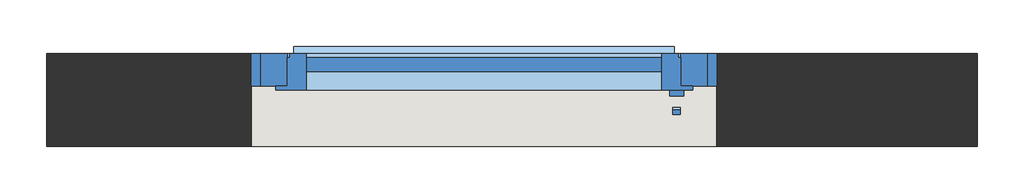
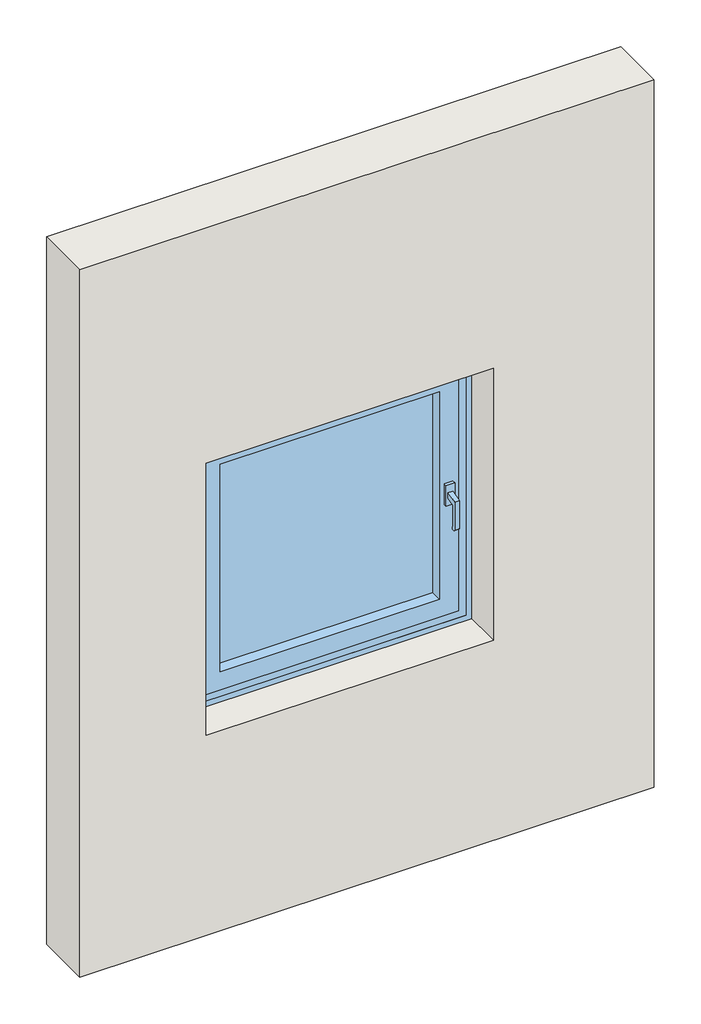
# One storey: 2 windows, 1 wall.
"""IFC4 building model written with IfcOpenShell, lengths in millimetres."""

from ifc_helpers import new_model, si_unit, frame, origin, place, context, project, spatial, polyline, outline, extrude, transform, mapped, element, save
from components import window_b4f2b5aa, window_8f1ec51b

model = new_model("IFC4")

# Units and contexts
model_context = context("Model", 3, world=origin())
ifc_project = project(units=[si_unit("LENGTHUNIT", "METRE", prefix="MILLI")], contexts=[model_context])

# Site, building, storey
site = spatial("IfcSite", under=ifc_project)
building = spatial("IfcBuilding", under=site)
storey = spatial("IfcBuildingStorey", under=building, Name="Этаж 01", Elevation=0.0)

# Wall
placement = place(None, origin())
element("IfcWall", 1, ObjectType="Типовой - 200мм", at=placement, inside=storey, context=model_context, shape_type="SweptSolid", body=[
    extrude(outline(polyline([(0.0, 0.0), (0.0, 2000.0), (2603.1870462, 2000.0), (2603.1870462, 0.0), (0.0, 0.0)]), holes=[polyline([(1737.1266386, 440.0), (1737.1266386, 1440.0), (737.1266386, 1440.0), (737.1266386, 440.0), (1737.1266386, 440.0)])]), frame((0.0, -200.0, 0.0), z_axis=(0.0, 1.0, 0.0), x_axis=(0.0, 0.0, 1.0)), (0.0, 0.0, 1.0), 200.0),
])

# Windows
window_shape = window_b4f2b5aa(model_context)
element("IfcWindow", 2, ObjectType="Окна.ТБМ_фурнитура_поворотная : Окна.ТБМ_фурнитура_поворотная", at=placement, inside=storey, context=model_context, shape_type="MappedRepresentation", body=[
    mapped(window_shape, transform((1353.5, -79.0, 1237.1266386), x_axis=(1.0, 0.0, 0.0), y_axis=(0.0, 0.0, 1.0), z_axis=(0.0, -1.0, 0.0))),
])
window_2_shape = window_8f1ec51b(model_context)
element("IfcWindow", 3, ObjectType="Окно.Alumark_одностворчатое_S70 : 960х960 (левое-откидное)", at=placement, inside=storey, context=model_context, shape_type="MappedRepresentation", body=[
    mapped(window_2_shape, transform((940.0, -100.0, -162.8733614), x_axis=(1.0, 0.0, 0.0), y_axis=(0.0, 1.0, 0.0), z_axis=(0.0, 0.0, 1.0))),
])

save(model, "model.ifc")
